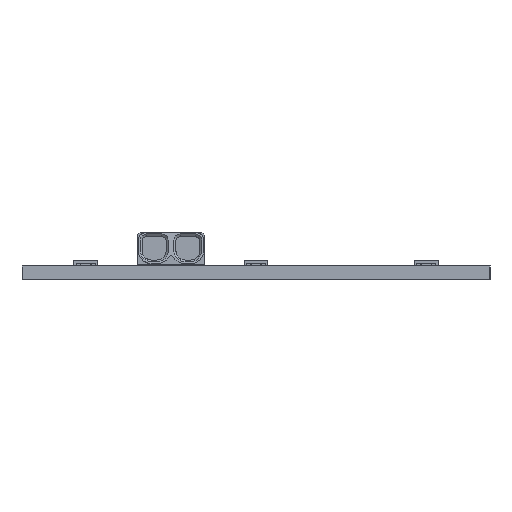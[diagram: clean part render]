
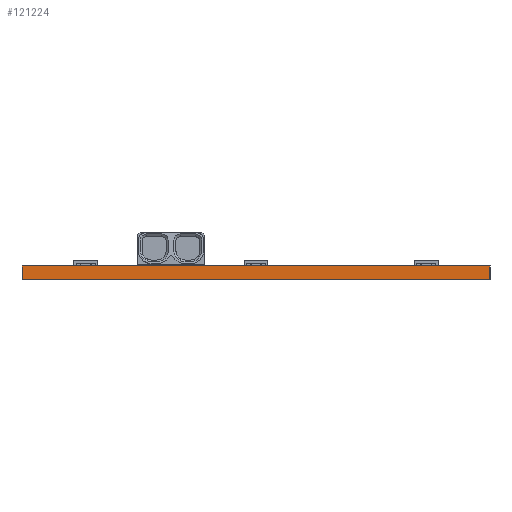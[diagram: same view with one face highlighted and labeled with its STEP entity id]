
A CAD part, left-side view. The second image highlights one B-rep face of the part: STEP entity #121224.
In plain terms, the highlighted planar face has unit normal (-1, 0, 0).
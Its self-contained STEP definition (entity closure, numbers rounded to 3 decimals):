
#905 = VECTOR ( 'NONE', #145216, 1000. ) ;
#1525 = ORIENTED_EDGE ( 'NONE', *, *, #66500, .T. ) ;
#7395 = VERTEX_POINT ( 'NONE', #82416 ) ;
#7515 = DIRECTION ( 'NONE',  ( 1., 0., 0. ) ) ;
#22170 = VECTOR ( 'NONE', #35692, 1000. ) ;
#23122 = EDGE_CURVE ( 'NONE', #124748, #61864, #55855, .T. ) ;
#35692 = DIRECTION ( 'NONE',  ( 0., -1., 0. ) ) ;
#36077 = CARTESIAN_POINT ( 'NONE',  ( -280., 27.5, 1.6 ) ) ;
#55855 = LINE ( 'NONE', #172121, #142005 ) ;
#58218 = ORIENTED_EDGE ( 'NONE', *, *, #204928, .T. ) ;
#60027 = VERTEX_POINT ( 'NONE', #36077 ) ;
#61864 = VERTEX_POINT ( 'NONE', #173695 ) ;
#66500 = EDGE_CURVE ( 'NONE', #7395, #61864, #87002, .T. ) ;
#71889 = PLANE ( 'NONE',  #74549 ) ;
#73130 = CARTESIAN_POINT ( 'NONE',  ( -280., -27.5, 1.6 ) ) ;
#74549 = AXIS2_PLACEMENT_3D ( 'NONE', #201473, #7515, #120728 ) ;
#80615 = CARTESIAN_POINT ( 'NONE',  ( -280., 27.5, 1.6 ) ) ;
#82416 = CARTESIAN_POINT ( 'NONE',  ( -280., 27.5, 0. ) ) ;
#82945 = ORIENTED_EDGE ( 'NONE', *, *, #173914, .F. ) ;
#87002 = LINE ( 'NONE', #159997, #905 ) ;
#90490 = FACE_OUTER_BOUND ( 'NONE', #101335, .T. ) ;
#101335 = EDGE_LOOP ( 'NONE', ( #1525, #142349, #82945, #58218 ) ) ;
#108284 = LINE ( 'NONE', #197084, #22170 ) ;
#114823 = VECTOR ( 'NONE', #210258, 1000. ) ;
#120728 = DIRECTION ( 'NONE',  ( 0., 0., -1. ) ) ;
#121224 = ADVANCED_FACE ( 'NONE', ( #90490 ), #71889, .F. ) ;
#124748 = VERTEX_POINT ( 'NONE', #73130 ) ;
#142005 = VECTOR ( 'NONE', #188320, 1000. ) ;
#142349 = ORIENTED_EDGE ( 'NONE', *, *, #23122, .F. ) ;
#145216 = DIRECTION ( 'NONE',  ( 0., -1., 0. ) ) ;
#159997 = CARTESIAN_POINT ( 'NONE',  ( -280., -27.5, 0. ) ) ;
#172121 = CARTESIAN_POINT ( 'NONE',  ( -280., -27.5, 1.6 ) ) ;
#173695 = CARTESIAN_POINT ( 'NONE',  ( -280., -27.5, 0. ) ) ;
#173914 = EDGE_CURVE ( 'NONE', #60027, #124748, #108284, .T. ) ;
#188320 = DIRECTION ( 'NONE',  ( 0., 0., -1. ) ) ;
#197084 = CARTESIAN_POINT ( 'NONE',  ( -280., -27.5, 1.6 ) ) ;
#200931 = LINE ( 'NONE', #80615, #114823 ) ;
#201473 = CARTESIAN_POINT ( 'NONE',  ( -280., -27.5, 1.6 ) ) ;
#204928 = EDGE_CURVE ( 'NONE', #60027, #7395, #200931, .T. ) ;
#210258 = DIRECTION ( 'NONE',  ( 0., 0., -1. ) ) ;
